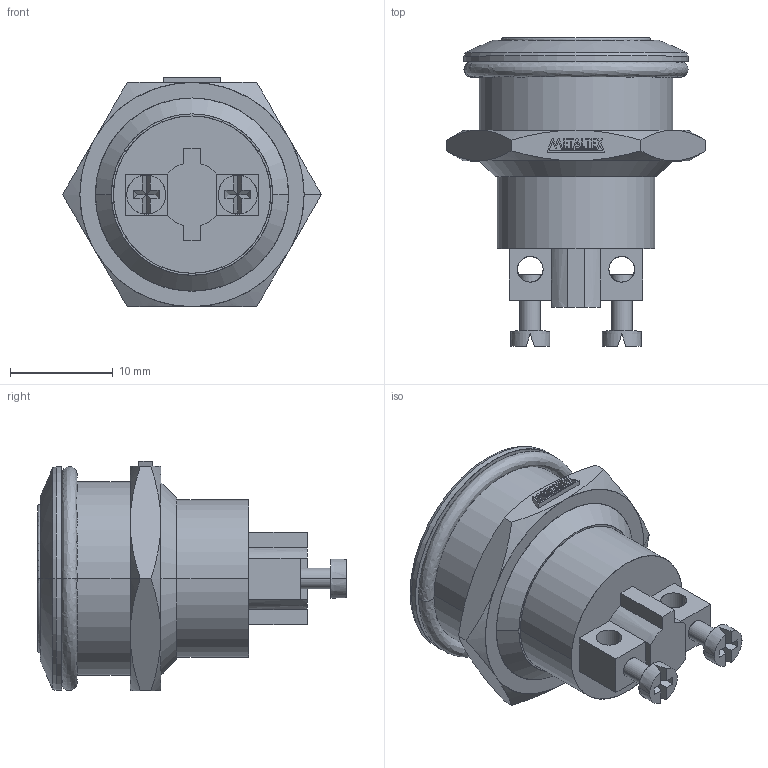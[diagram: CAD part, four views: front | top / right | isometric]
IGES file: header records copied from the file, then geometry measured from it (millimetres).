
Start section: SolidWorks IGES file using analytic representation for surfaces
Global section: file name: D:\X - Arquivos\PROEX\Empresas\P11 - METALTEX\01 - Produtos\IGES\Segunda remessa\AV19FA.IGS; native system: SolidWorks 2012; preprocessor: SolidWorks 2012; author: Usuario; date: 180117.123026; units: millimetre
Bounding box: 25.2 x 30.05 x 22.32 mm (x, y, z)
Surface area: 2796.8 mm2 (no closed solid volume)
Topology: 0 solids, 0 shells, 209 faces, 2138 edges, 2138 vertices
Faces by surface type: bspline 159, revolution 50
